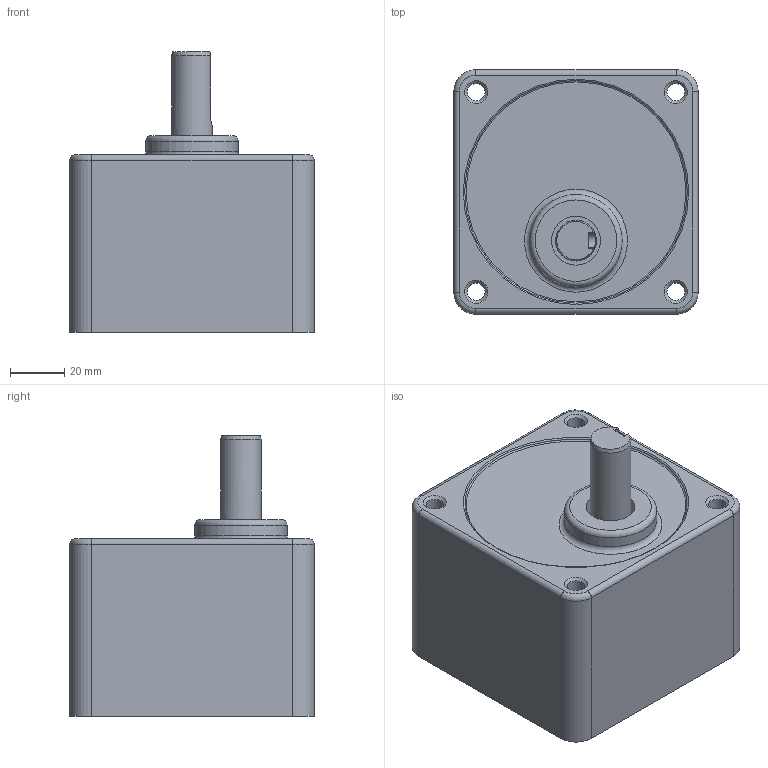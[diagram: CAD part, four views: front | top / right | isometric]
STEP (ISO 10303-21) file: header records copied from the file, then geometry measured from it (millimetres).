
FILE_DESCRIPTION((''),'2;1');
FILE_NAME('\\Spgrnd02\고객배포용도면\3D\Small Standard Series\GEAR HEAD\GEAR HEAD\60W\가져온 구성요소\S9KC3~200\S9KC3~200.stp','2014-09-16T09:00:52',('jy-jung'),(''),'Autodesk Inventor 2011','Autodesk Inventor 2011','');
FILE_SCHEMA(('AUTOMOTIVE_DESIGN { 1 0 10303 214 1 1 1 1 }'));
Length unit declared in the file: millimetre
Products named in the file (1): S9KC3~200
Bounding box: 90 x 90 x 103.5 mm (x, y, z)
Volume: 502935 mm3; surface area: 48466.1 mm2
Topology: 1 solids, 1 shells, 51 faces, 113 edges, 70 vertices
Faces by surface type: plane 19, cylinder 18, torus 8, cone 5, bspline 1
Full cylindrical faces by diameter (mm): 6.5 x4, 12 x1, 15 x1, 18 x1, 34 x1, 83 x1
Entity records: 1446 total; most frequent: CARTESIAN_POINT 323, DIRECTION 241, ORIENTED_EDGE 188, AXIS2_PLACEMENT_3D 102, EDGE_CURVE 94, EDGE_LOOP 82, VERTEX_POINT 68, FACE_OUTER_BOUND 51
